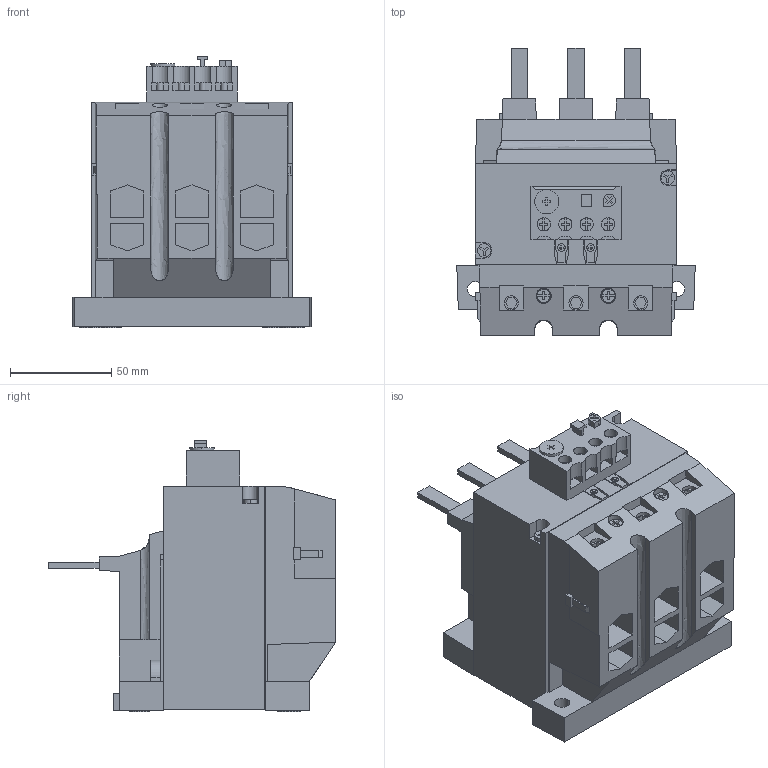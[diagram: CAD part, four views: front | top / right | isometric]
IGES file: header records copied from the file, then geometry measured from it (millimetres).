
Start section: Data from XPlus IGES,  Spatial Corp. Copyright (c) 1999-2004
Global section: file name: 278464.igs; native system:  By Spatial Corp.; preprocessor: XPlus ACIS/IGES 3.0; author: Noname; organization: Noname; date: 20120626.153708; units: millimetre
Bounding box: 118 x 142 x 134.4 mm (x, y, z)
Surface area: 123079.6 mm2 (no closed solid volume)
Topology: 0 solids, 0 shells, 531 faces, 2904 edges, 2904 vertices
Faces by surface type: extrusion 450, revolution 81
